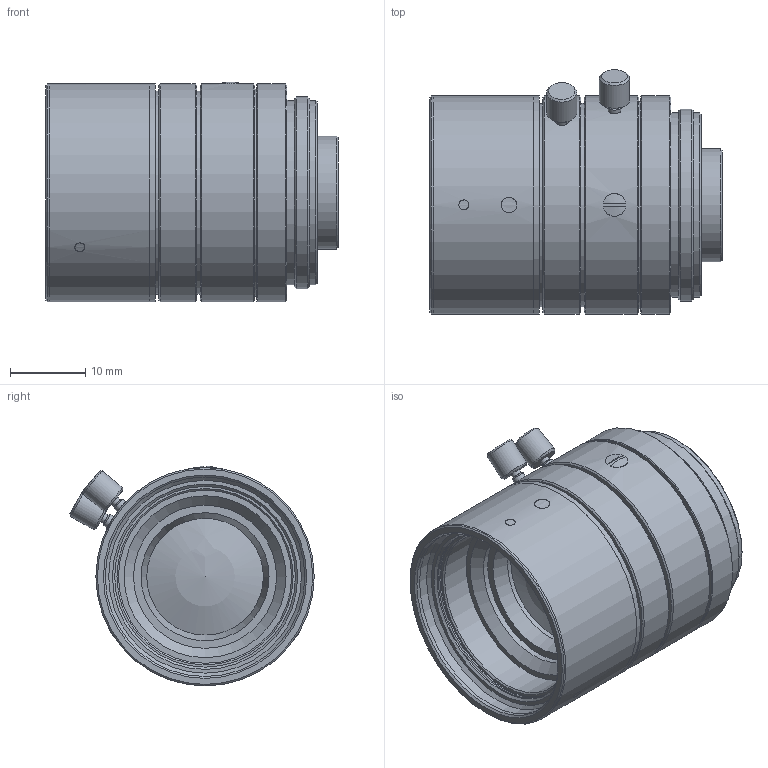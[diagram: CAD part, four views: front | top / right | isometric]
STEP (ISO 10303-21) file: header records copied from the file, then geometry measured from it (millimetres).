
FILE_DESCRIPTION(/* description */ ('Unknown'),/* implementation_level */ '2;1');
FILE_NAME(/* name */ 'M2528-MPW3_HP_251009_',/* time_stamp */ '2025-10-10T10:03:49+09:00',/* author */ ('Unknown'),/* organization */ ('Unknown'),/* preprocessor_version */ 'ST-DEVELOPER v18.102',/* originating_system */ 'Solid Edge',/* authorisation */ 'Unknown');
FILE_SCHEMA (('AUTOMOTIVE_DESIGN {1 0 10303 214 3 1 1}'));
Length unit declared in the file: millimetre
Products named in the file (3): M2528-MPW3_HP_251009_; M2528-MPW3_Infinity_251009_; M2528-MPW3_Mechanical Limit_251009_
Assembly tree (2 placements, depth 2):
  M2528-MPW3_HP_251009_
    M2528-MPW3_Infinity_251009_
    M2528-MPW3_Mechanical Limit_251009_
Bounding box: 38.78 x 32.47 x 29.19 mm (x, y, z)
Volume: 36452.6 mm3; surface area: 12734.2 mm2
Topology: 2 solids, 2 shells, 172 faces, 305 edges, 183 vertices
Faces by surface type: cylinder 63, cone 53, plane 48, sphere 8
Full cylindrical faces by diameter (mm): 1.3 x4, 1.321 x3, 1.7 x4, 4 x4, 10.5 x2, 15 x2, 15.5 x2, 19 x2, 19.5 x2, 22.5 x2, 23 x2, 24 x3, 24.5 x4, 25.5 x2, 26.5 x2, 27 x4, 27.5 x2, 28.98 x2, 29 x7
Entity records: 4864 total; most frequent: CARTESIAN_POINT 675, DIRECTION 670, ORIENTED_EDGE 364, EDGE_LOOP 332, FACE_BOUND 332, AXIS2_PLACEMENT_3D 329, EDGE_CURVE 182, VERTEX_POINT 174
